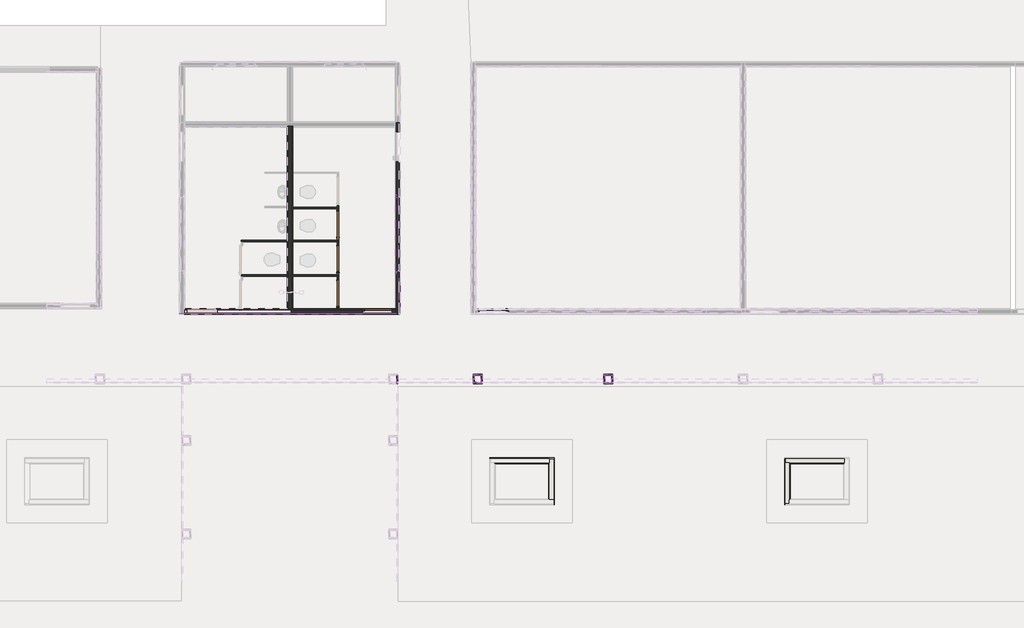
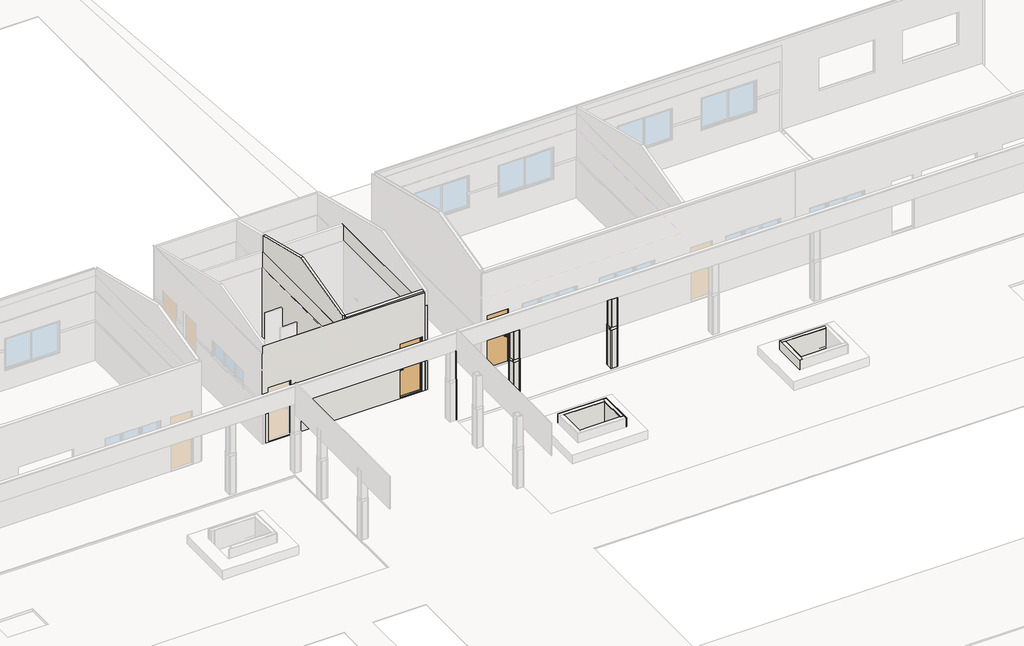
# One storey, part 15 of 28: 59 walls, 7 doors, 1 window.
"""IFC4 building model written with IfcOpenShell, lengths in millimetres."""

from ifc_helpers import new_model, si_unit, frame, origin, origin_with_axes, place, context, project, spatial, polyline, outline, extrude, faceted_brep, transform, mapped, element, save
from components import door_29174598, door_1a2d8e3b, door_95b59213, pf15_l82cm_5bfc7586, pf15_l82cm_686caa18, window_2x60x220_bcaba8dd

model = new_model("IFC4")

# Units and contexts
model_context = context("Model", 3, world=origin())
ifc_project = project(units=[si_unit("LENGTHUNIT", "METRE", prefix="MILLI")], contexts=[model_context])

# Site, building, storey
site = spatial("IfcSite", under=ifc_project)
building = spatial("IfcBuilding", under=site)
storey = spatial("IfcBuildingStorey", under=building, Name="Térreo", Elevation=0.0)

# Doors
placement = place(None, origin())
door_shape = door_29174598(model_context)
element("IfcDoor", 1, ObjectType="FDE_SO_Soleiras1 : SO14_SoleiraRampadaDesnívelAté2cm_L=14cm_Cimentado 2", at=placement, inside=storey, context=model_context, shape_type="MappedRepresentation", body=[
    mapped(door_shape, transform((-28540.0, 21100.0, 215.0), x_axis=(1.0, 0.0, 0.0), y_axis=(0.0, 1.0, 0.0), z_axis=(0.0, 0.0, 1.0))),
])
door_2_shape = door_1a2d8e3b(model_context)
element("IfcDoor", 2, ObjectType="FDE_PM_PortaBoxe : PM74_PortaBoxe_L0,62m", at=placement, inside=storey, context=model_context, shape_type="MappedRepresentation", body=[
    mapped(door_2_shape, transform((-29661.9219368, 23495.0, 200.0), x_axis=(0.0, 1.0, 0.0), y_axis=(-1.0, 0.0, 0.0), z_axis=(0.0, 0.0, 1.0))),
])
element("IfcDoor", 3, ObjectType="FDE_PM_PortaBoxe : PM74_PortaBoxe_L0,62m", at=placement, inside=storey, context=model_context, shape_type="MappedRepresentation", body=[
    mapped(door_2_shape, transform((-29661.9219368, 22525.9999995, 220.0), x_axis=(0.0, 1.0, 0.0), y_axis=(-1.0, 0.0, 0.0), z_axis=(0.0, 0.0, 1.0))),
])
element("IfcDoor", 4, ObjectType="FDE_PM_PortaBoxe : PM74_PortaBoxe_L0,62m", at=placement, inside=storey, context=model_context, shape_type="MappedRepresentation", body=[
    mapped(door_2_shape, transform((-29661.9219368, 21566.0000001, 220.0), x_axis=(0.0, 1.0, 0.0), y_axis=(-1.0, 0.0, 0.0), z_axis=(0.0, 0.0, 1.0))),
])
door_3_shape = door_95b59213(model_context)
element("IfcDoor", 5, ObjectType="FDE_SO_Soleiras1 : SO14_SoleiraRampadaDesnívelAté2cm_L=14cm_Cimentado 2", at=placement, inside=storey, context=model_context, shape_type="MappedRepresentation", body=[
    mapped(door_3_shape, transform((-25313.0, 21100.0, 200.0), x_axis=(-1.0, 0.0, 0.0), y_axis=(0.0, -1.0, 0.0), z_axis=(0.0, 0.0, 1.0))),
])
pf15_l82cm_shape = pf15_l82cm_5bfc7586(model_context)
element("IfcDoor", 6, ObjectType="FDE_PF15_PF16_PF17_PortaemChapadeFerro : PF15_L82cm", at=placement, inside=storey, context=model_context, shape_type="MappedRepresentation", body=[
    mapped(pf15_l82cm_shape, transform((-28540.0, 21105.0, 215.0), x_axis=(1.0, 0.0, 0.0), y_axis=(0.0, 1.0, 0.0), z_axis=(0.0, 0.0, 1.0))),
])
pf15_l82cm_2_shape = pf15_l82cm_686caa18(model_context)
element("IfcDoor", 7, ObjectType="FDE_PF15_PF16_PF17_PortaemChapadeFerro : PF15_L82cm", at=placement, inside=storey, context=model_context, shape_type="MappedRepresentation", body=[
    mapped(pf15_l82cm_2_shape, transform((-25313.0, 21105.0, 200.0), x_axis=(-1.0, 0.0, 0.0), y_axis=(0.0, -1.0, 0.0), z_axis=(0.0, 0.0, 1.0))),
])

# Walls
element("IfcWall", 8, ObjectType="FDE_S712_AlvenariadeTijoloCerâmico/Baiano_Alvenaria_9cm - Existente", at=placement, inside=storey, context=model_context, shape_type="SweptSolid", body=[
    extrude(outline(polyline([(-31020.0, 21150.0), (-31020.0, 26255.0), (-30930.0, 26255.0), (-30930.0, 21150.0), (-31020.0, 21150.0)])), origin_with_axes(), (0.0, 0.0, 1.0), 3500.0),
])
element("IfcWall", 9, ObjectType="FDE_S712_AlvenariadeTijoloCerâmico/Baiano_Alvenaria_9cm - Existente", at=placement, inside=storey, context=model_context, shape_type="Brep", body=[
    faceted_brep([(-28020.0, 21150.0, 131.0), (-28020.0, 21150.0, 0.0), (-29710.0, 21150.0, 0.0), (-29710.0, 21150.0, 131.0), (-28020.0, 21060.0, 0.0), (-28020.0, 21060.0, 131.0), (-29710.0, 21060.0, 131.0), (-29710.0, 21060.0, 0.0)], [[[0, 1, 2, 3]], [[4, 5, 6, 7]], [[1, 4, 7, 2]], [[5, 0, 3, 6]], [[1, 0, 5, 4]], [[3, 2, 7, 6]]]),
    faceted_brep([(-33930.0, 21150.0, 0.0), (-33930.0, 21150.0, 131.0), (-30544.0, 21150.0, 131.0), (-30544.0, 21150.0, 0.0), (-30930.0, 21150.0, 0.0), (-31020.0, 21150.0, 0.0), (-33930.0, 21060.0, 131.0), (-33930.0, 21060.0, 0.0), (-30544.0, 21060.0, 0.0), (-30544.0, 21060.0, 131.0)], [[[0, 1, 2, 3, 4, 5]], [[6, 7, 8, 9]], [[7, 0, 5, 4, 3, 8]], [[1, 6, 9, 2]], [[1, 0, 7, 6]], [[3, 2, 9, 8]]]),
])
element("IfcWall", 10, ObjectType="FDE_S712_AlvenariadeTijoloCerâmico/Baiano_Alvenaria_9cm - Existente", at=placement, inside=storey, context=model_context, shape_type="Brep", body=[
    faceted_brep([(-28020.0, 26345.0, 0.0), (-28020.0, 26255.0, 0.0), (-28020.0, 21150.0, 0.0), (-28020.0, 21060.0, 0.0), (-28020.0, 21060.0, 131.0), (-28020.0, 21030.0, 131.0), (-28020.0, 21030.0, 1731.0528047), (-28020.0, 21045.0, 1731.0528047), (-28020.0, 21045.0, 3500.0), (-28020.0, 26255.0, 3500.0), (-28020.0, 26345.0, 3500.0), (-28020.0, 26096.0, 115.0), (-28020.0, 26096.0, 2227.0), (-28020.0, 25262.0, 2227.0), (-28020.0, 25262.0, 115.0), (-28020.0, 24285.0, 1665.0), (-28020.0, 24285.0, 2335.0), (-28020.0, 22215.0, 2335.0), (-28020.0, 22215.0, 1665.0), (-27930.0, 21060.0, 0.0), (-27930.0, 26345.0, 0.0), (-27930.0, 26345.0, 3500.0), (-27930.0, 21045.0, 3500.0), (-27930.0, 21045.0, 1824.9435125), (-27930.0, 21045.0, 1731.0528047), (-27930.0, 21030.0, 1731.0528047), (-27930.0, 21030.0, 131.0), (-27930.0, 21060.0, 131.0), (-27930.0, 26096.0, 2227.0), (-27930.0, 26096.0, 1824.9435125), (-27930.0, 26096.0, 1731.0528047), (-27930.0, 26096.0, 1700.0), (-27930.0, 26096.0, 115.0), (-27930.0, 25262.0, 115.0), (-27930.0, 25262.0, 1700.0), (-27930.0, 25262.0, 1731.0528047), (-27930.0, 25262.0, 1824.9435125), (-27930.0, 25262.0, 2227.0), (-27930.0, 24285.0, 2335.0), (-27930.0, 24285.0, 1824.9435125), (-27930.0, 24285.0, 1731.0528047), (-27930.0, 24285.0, 1700.0), (-27930.0, 24285.0, 1665.0), (-27930.0, 22215.0, 1665.0), (-27930.0, 22215.0, 1700.0), (-27930.0, 22215.0, 1731.0528047), (-27930.0, 22215.0, 1824.9435125), (-27930.0, 22215.0, 2335.0)], [[[0, 1, 2, 3, 4, 5, 6, 7, 8, 9, 10], [11, 12, 13, 14], [15, 16, 17, 18]], [[19, 20, 21, 22, 23, 24, 25, 26, 27], [28, 29, 30, 31, 32, 33, 34, 35, 36, 37], [38, 39, 40, 41, 42, 43, 44, 45, 46, 47]], [[3, 2, 1, 0, 20, 19]], [[10, 9, 8, 22, 21]], [[0, 10, 21, 20]], [[11, 32, 31, 30, 29, 28, 12]], [[12, 28, 37, 13]], [[13, 37, 36, 35, 34, 33, 14]], [[32, 11, 14, 33]], [[15, 42, 41, 40, 39, 38, 16]], [[16, 38, 47, 17]], [[17, 47, 46, 45, 44, 43, 18]], [[42, 15, 18, 43]], [[5, 4, 27, 26]], [[3, 19, 27, 4]], [[24, 7, 6, 25]], [[5, 26, 25, 6]], [[22, 8, 7, 24, 23]]]),
])
element("IfcWall", 11, ObjectType="FDE_S712_AlvenariadeTijoloCerâmico/Baiano_Alvenaria_9cm - Existente", at=placement, inside=storey, context=model_context, shape_type="Brep", body=[
    faceted_brep([(-28050.0, 21150.0, 0.0), (-30930.0, 21150.0, 0.0), (-30930.0, 21150.0, 100.0), (-30930.0, 21150.0, 1100.0), (-30930.0, 21150.0, 2900.0), (-30930.0, 21150.0, 4093.692274), (-28050.0, 21150.0, 4093.692274), (-28050.0, 21150.0, 2900.0), (-28050.0, 21150.0, 200.0), (-28123.0, 21150.0, 215.0), (-28123.0, 21150.0, 1100.0), (-28123.0, 21150.0, 2327.0), (-28957.0, 21150.0, 2327.0), (-28957.0, 21150.0, 1100.0), (-28957.0, 21150.0, 215.0), (-30930.0, 21060.0, 0.0), (-28050.0, 21060.0, 0.0), (-28050.0, 21060.0, 4071.192274), (-30930.0, 21060.0, 4071.192274), (-28123.0, 21060.0, 2327.0), (-28123.0, 21060.0, 1824.9435125), (-28123.0, 21060.0, 1731.0528047), (-28123.0, 21060.0, 215.0), (-28957.0, 21060.0, 215.0), (-28957.0, 21060.0, 1731.0528047), (-28957.0, 21060.0, 1824.9435125), (-28957.0, 21060.0, 2327.0)], [[[0, 1, 2, 3, 4, 5, 6, 7, 8], [9, 10, 11, 12, 13, 14]], [[15, 16, 17, 18], [19, 20, 21, 22, 23, 24, 25, 26]], [[1, 0, 16, 15]], [[0, 8, 7, 6, 17, 16]], [[6, 5, 18, 17]], [[5, 4, 3, 2, 1, 15, 18]], [[9, 22, 21, 20, 19, 11, 10]], [[11, 19, 26, 12]], [[12, 26, 25, 24, 23, 14, 13]], [[22, 9, 14, 23]]]),
])
element("IfcWall", 12, ObjectType="FDE_S712_AlvenariadeTijoloCerâmico/Baiano_Alvenaria_9cm - Existente", at=placement, inside=storey, context=model_context, shape_type="Brep", body=[
    faceted_brep([(-30930.0, 21150.0, 0.0), (-30930.0, 26225.0, 0.0), (-30930.0, 26225.0, 4155.7580277), (-30930.0, 23811.6315073, 4759.1001508), (-30930.0, 21150.0, 4093.692274), (-30930.0, 21150.0, 2900.0), (-30930.0, 21150.0, 1100.0), (-31020.0, 21150.0, 0.0), (-31020.0, 21150.0, 4093.692274), (-31020.0, 23811.6315073, 4759.1001508), (-31020.0, 26225.0, 4155.7580277), (-31020.0, 26225.0, 0.0)], [[[0, 1, 2, 3, 4, 5, 6]], [[7, 8, 9, 10, 11]], [[1, 0, 7, 11]], [[2, 1, 11, 10]], [[0, 6, 5, 4, 8, 7]], [[4, 3, 9, 8]], [[3, 2, 10, 9]]]),
])
element("IfcWall", 13, ObjectType="Revestimento Cerâmico 10x10cm", at=placement, inside=storey, context=model_context, shape_type="Brep", body=[
    faceted_brep([(-33930.0, 21030.0, 0.0), (-28020.0, 21030.0, 0.0), (-28020.0, 21030.0, 131.0), (-28020.0, 21030.0, 1731.0528047), (-28123.0, 21030.0, 1731.0528047), (-28123.0, 21030.0, 215.0), (-28957.0, 21030.0, 215.0), (-28957.0, 21030.0, 1731.0528047), (-32996.0, 21030.0, 1731.0528047), (-32996.0, 21030.0, 215.0), (-33830.0, 21030.0, 215.0), (-33830.0, 21030.0, 1731.0528047), (-33930.0, 21030.0, 1731.0528047), (-33930.0, 21030.0, 131.0), (-28020.0, 21060.0, 0.0), (-28050.0, 21060.0, 0.0), (-30930.0, 21060.0, 0.0), (-33930.0, 21060.0, 0.0), (-33930.0, 21060.0, 1731.0528047), (-33830.0, 21060.0, 1731.0528047), (-33830.0, 21060.0, 215.0), (-32996.0, 21060.0, 215.0), (-32996.0, 21060.0, 1731.0528047), (-28957.0, 21060.0, 1731.0528047), (-28957.0, 21060.0, 215.0), (-28123.0, 21060.0, 215.0), (-28123.0, 21060.0, 1731.0528047), (-28020.0, 21060.0, 1731.0528047), (-28020.0, 21045.0, 1731.0528047)], [[[0, 1, 2, 3, 4, 5, 6, 7, 8, 9, 10, 11, 12, 13]], [[14, 15, 16, 17, 18, 19, 20, 21, 22, 23, 24, 25, 26, 27]], [[1, 0, 17, 16, 15, 14]], [[26, 4, 3, 28, 27]], [[7, 23, 22, 8]], [[18, 12, 11, 19]], [[25, 5, 4, 26]], [[6, 24, 23, 7]], [[5, 25, 24, 6]], [[10, 20, 19, 11]], [[21, 9, 8, 22]], [[20, 10, 9, 21]], [[12, 18, 17, 0, 13]], [[1, 14, 27, 28, 3, 2]]]),
])
element("IfcWall", 14, ObjectType="Faixa - Revestimento Cerâmico Verde Folha 10x10cm", at=placement, inside=storey, context=model_context, shape_type="Brep", body=[
    faceted_brep([(-27900.0, 21045.0, 1824.9435125), (-27900.0, 21045.0, 1731.0528047), (-27900.0, 22215.0, 1731.0528047), (-27900.0, 22215.0, 1824.9435125), (-27930.0, 21045.0, 1731.0528047), (-27930.0, 21045.0, 1824.9435125), (-27930.0, 22215.0, 1824.9435125), (-27930.0, 22215.0, 1731.0528047), (-27909.0, 21045.0, 1824.9435125)], [[[0, 1, 2, 3]], [[4, 5, 6, 7]], [[1, 4, 7, 2]], [[5, 8, 0, 3, 6]], [[1, 0, 8, 5, 4]], [[3, 2, 7, 6]]]),
])
element("IfcWall", 15, ObjectType="Pardes Externas_Pintura Acrílica Branco Neve", at=placement, inside=storey, context=model_context, shape_type="Brep", body=[
    faceted_brep([(-28020.0, 21039.0, 4013.8205229), (-34020.0, 21039.0, 4013.8205229), (-34020.0, 21039.0, 3741.7030272), (-34041.0, 21039.0, 3741.7030272), (-34041.0, 21039.0, 1824.9435125), (-33830.0, 21039.0, 1824.9435125), (-33830.0, 21039.0, 2327.0), (-32996.0, 21039.0, 2327.0), (-32996.0, 21039.0, 1824.9435125), (-28957.0, 21039.0, 1824.9435125), (-28957.0, 21039.0, 2327.0), (-28123.0, 21039.0, 2327.0), (-28123.0, 21039.0, 1824.9435125), (-28020.0, 21039.0, 1824.9435125), (-34020.0, 21060.0, 4013.8205229), (-28020.0, 21060.0, 4013.8205229), (-28020.0, 21060.0, 1824.9435125), (-28123.0, 21060.0, 1824.9435125), (-28123.0, 21060.0, 2327.0), (-28957.0, 21060.0, 2327.0), (-28957.0, 21060.0, 1824.9435125), (-32996.0, 21060.0, 1824.9435125), (-32996.0, 21060.0, 2327.0), (-33830.0, 21060.0, 2327.0), (-33830.0, 21060.0, 1824.9435125), (-34020.0, 21060.0, 1824.9435125), (-34041.0, 21060.0, 1824.9435125), (-34041.0, 21060.0, 3741.7030272), (-34020.0, 21060.0, 3741.7030272)], [[[0, 1, 2, 3, 4, 5, 6, 7, 8, 9, 10, 11, 12, 13]], [[14, 15, 16, 17, 18, 19, 20, 21, 22, 23, 24, 25, 26, 27, 28]], [[4, 26, 25, 24, 5]], [[12, 17, 16, 13]], [[20, 9, 8, 21]], [[1, 0, 15, 14]], [[26, 4, 3, 27]], [[1, 14, 28, 2]], [[28, 27, 3, 2]], [[11, 18, 17, 12]], [[18, 11, 10, 19]], [[19, 10, 9, 20]], [[23, 6, 5, 24]], [[6, 23, 22, 7]], [[7, 22, 21, 8]], [[13, 16, 15, 0]]]),
])
element("IfcWall", 16, ObjectType="Revestimento Cerâmico 10x10cm", at=placement, inside=storey, context=model_context, shape_type="Brep", body=[
    faceted_brep([(-28000.0, 19330.0, 194.0), (-28000.0, 19130.0, 194.0), (-28000.0, 19100.0, 194.0), (-28000.0, 19100.0, 1694.0), (-28000.0, 19130.0, 1694.0), (-28000.0, 19330.0, 1694.0), (-27970.0, 19330.0, 194.0), (-27970.0, 19330.0, 1694.0), (-27970.0, 19100.0, 1694.0), (-27970.0, 19100.0, 194.0)], [[[0, 1, 2, 3, 4, 5]], [[6, 7, 8, 9]], [[2, 1, 0, 6, 9]], [[5, 4, 3, 8, 7]], [[0, 5, 7, 6]], [[3, 2, 9, 8]]]),
])
element("IfcWall", 17, ObjectType="Faixa - Revestimento Cerâmico Verde Folha 10x10cm", at=placement, inside=storey, context=model_context, shape_type="Brep", body=[
    faceted_brep([(-28000.0, 19330.0, 1694.0), (-28000.0, 19130.0, 1694.0), (-28000.0, 19100.0, 1694.0), (-28000.0, 19100.0, 1794.0), (-28000.0, 19130.0, 1794.0), (-28000.0, 19330.0, 1794.0), (-27970.0, 19330.0, 1694.0), (-27970.0, 19330.0, 1794.0), (-27970.0, 19100.0, 1794.0), (-27970.0, 19100.0, 1694.0)], [[[0, 1, 2, 3, 4, 5]], [[6, 7, 8, 9]], [[2, 1, 0, 6, 9]], [[5, 4, 3, 8, 7]], [[0, 5, 7, 6]], [[3, 2, 9, 8]]]),
])
element("IfcWall", 18, ObjectType="Pardes Externas_Pintura Acrílica Branco Neve", at=placement, inside=storey, context=model_context, shape_type="Brep", body=[
    faceted_brep([(-28000.0, 19330.0, 1794.0), (-28000.0, 19130.0, 1794.0), (-28000.0, 19109.0, 1794.0), (-28000.0, 19109.0, 2900.0), (-28000.0, 19130.0, 2900.0), (-28000.0, 19330.0, 2900.0), (-27979.0, 19330.0, 1794.0), (-27979.0, 19330.0, 2900.0), (-27979.0, 19109.0, 2900.0), (-27979.0, 19109.0, 1794.0)], [[[0, 1, 2, 3, 4, 5]], [[6, 7, 8, 9]], [[2, 1, 0, 6, 9]], [[5, 4, 3, 8, 7]], [[3, 2, 9, 8]], [[0, 5, 7, 6]]]),
])
element("IfcWall", 19, ObjectType="Pardes Externas_Pintura Acrílica Branco Neve", at=placement, inside=storey, context=model_context, shape_type="Brep", body=[
    faceted_brep([(-25871.0, 19330.0, 1794.0), (-25850.0, 19330.0, 1794.0), (-25650.0, 19330.0, 1794.0), (-25629.0, 19330.0, 1794.0), (-25629.0, 19330.0, 2900.0), (-25650.0, 19330.0, 2900.0), (-25850.0, 19330.0, 2900.0), (-25871.0, 19330.0, 2900.0), (-25871.0, 19351.0, 1794.0), (-25871.0, 19351.0, 2900.0), (-25629.0, 19351.0, 2900.0), (-25629.0, 19351.0, 1794.0)], [[[0, 1, 2, 3, 4, 5, 6, 7]], [[8, 9, 10, 11]], [[3, 2, 1, 0, 8, 11]], [[7, 6, 5, 4, 10, 9]], [[0, 7, 9, 8]], [[4, 3, 11, 10]]]),
])
element("IfcWall", 20, ObjectType="Revestimento Cerâmico 10x10cm", at=placement, inside=storey, context=model_context, shape_type="Brep", body=[
    faceted_brep([(-25880.0, 19330.0, 194.0), (-25850.0, 19330.0, 194.0), (-25650.0, 19330.0, 194.0), (-25620.0, 19330.0, 194.0), (-25620.0, 19330.0, 1694.0), (-25650.0, 19330.0, 1694.0), (-25850.0, 19330.0, 1694.0), (-25880.0, 19330.0, 1694.0), (-25880.0, 19360.0, 194.0), (-25880.0, 19360.0, 1694.0), (-25620.0, 19360.0, 1694.0), (-25620.0, 19360.0, 194.0)], [[[0, 1, 2, 3, 4, 5, 6, 7]], [[8, 9, 10, 11]], [[3, 2, 1, 0, 8, 11]], [[7, 6, 5, 4, 10, 9]], [[0, 7, 9, 8]], [[4, 3, 11, 10]]]),
])
element("IfcWall", 21, ObjectType="Revestimento Cerâmico 10x10cm", at=placement, inside=storey, context=model_context, shape_type="Brep", body=[
    faceted_brep([(-25850.0, 19100.0, 194.0), (-25850.0, 19130.0, 194.0), (-25850.0, 19330.0, 194.0), (-25850.0, 19330.0, 1694.0), (-25850.0, 19130.0, 1694.0), (-25850.0, 19100.0, 1694.0), (-25880.0, 19100.0, 194.0), (-25880.0, 19100.0, 1694.0), (-25880.0, 19330.0, 1694.0), (-25880.0, 19330.0, 194.0)], [[[0, 1, 2, 3, 4, 5]], [[6, 7, 8, 9]], [[2, 1, 0, 6, 9]], [[5, 4, 3, 8, 7]], [[3, 2, 9, 8]], [[0, 5, 7, 6]]]),
])
element("IfcWall", 22, ObjectType="Revestimento Cerâmico 10x10cm", at=placement, inside=storey, context=model_context, shape_type="Brep", body=[
    faceted_brep([(-25650.0, 19330.0, 194.0), (-25650.0, 19130.0, 194.0), (-25650.0, 19100.0, 194.0), (-25650.0, 19100.0, 1694.0), (-25650.0, 19130.0, 1694.0), (-25650.0, 19330.0, 1694.0), (-25620.0, 19330.0, 194.0), (-25620.0, 19330.0, 1694.0), (-25620.0, 19100.0, 1694.0), (-25620.0, 19100.0, 194.0)], [[[0, 1, 2, 3, 4, 5]], [[6, 7, 8, 9]], [[2, 1, 0, 6, 9]], [[5, 4, 3, 8, 7]], [[0, 5, 7, 6]], [[3, 2, 9, 8]]]),
])
element("IfcWall", 23, ObjectType="Revestimento Cerâmico 10x10cm", at=placement, inside=storey, context=model_context, shape_type="SweptSolid", body=[
    extrude(outline(polyline([(-25650.0, 19100.0), (-25850.0, 19100.0), (-25850.0, 19130.0), (-25650.0, 19130.0), (-25650.0, 19100.0)])), frame((0.0, 0.0, 194.0), z_axis=(0.0, 0.0, 1.0), x_axis=(1.0, 0.0, 0.0)), (0.0, 0.0, 1.0), 1500.0),
])
element("IfcWall", 24, ObjectType="Faixa - Revestimento Cerâmico Verde Folha 10x10cm", at=placement, inside=storey, context=model_context, shape_type="Brep", body=[
    faceted_brep([(-25880.0, 19330.0, 1694.0), (-25850.0, 19330.0, 1694.0), (-25650.0, 19330.0, 1694.0), (-25620.0, 19330.0, 1694.0), (-25620.0, 19330.0, 1794.0), (-25650.0, 19330.0, 1794.0), (-25850.0, 19330.0, 1794.0), (-25880.0, 19330.0, 1794.0), (-25880.0, 19360.0, 1694.0), (-25880.0, 19360.0, 1794.0), (-25620.0, 19360.0, 1794.0), (-25620.0, 19360.0, 1694.0)], [[[0, 1, 2, 3, 4, 5, 6, 7]], [[8, 9, 10, 11]], [[3, 2, 1, 0, 8, 11]], [[7, 6, 5, 4, 10, 9]], [[4, 3, 11, 10]], [[0, 7, 9, 8]]]),
])
element("IfcWall", 25, ObjectType="Faixa - Revestimento Cerâmico Verde Folha 10x10cm", at=placement, inside=storey, context=model_context, shape_type="Brep", body=[
    faceted_brep([(-25650.0, 19330.0, 1694.0), (-25650.0, 19130.0, 1694.0), (-25650.0, 19100.0, 1694.0), (-25650.0, 19100.0, 1794.0), (-25650.0, 19130.0, 1794.0), (-25650.0, 19330.0, 1794.0), (-25620.0, 19330.0, 1694.0), (-25620.0, 19330.0, 1794.0), (-25620.0, 19100.0, 1794.0), (-25620.0, 19100.0, 1694.0)], [[[0, 1, 2, 3, 4, 5]], [[6, 7, 8, 9]], [[2, 1, 0, 6, 9]], [[5, 4, 3, 8, 7]], [[0, 5, 7, 6]], [[3, 2, 9, 8]]]),
])
element("IfcWall", 26, ObjectType="Faixa - Revestimento Cerâmico Verde Folha 10x10cm", at=placement, inside=storey, context=model_context, shape_type="Brep", body=[
    faceted_brep([(-25880.0, 19100.0, 1694.0), (-25650.0, 19100.0, 1694.0), (-25650.0, 19100.0, 1794.0), (-25880.0, 19100.0, 1794.0), (-25880.0, 19130.0, 1694.0), (-25880.0, 19130.0, 1794.0), (-25850.0, 19130.0, 1794.0), (-25650.0, 19130.0, 1794.0), (-25650.0, 19130.0, 1694.0), (-25850.0, 19130.0, 1694.0), (-25650.0, 19109.0, 1794.0)], [[[0, 1, 2, 3]], [[4, 5, 6, 7, 8, 9]], [[1, 0, 4, 9, 8]], [[3, 2, 10, 7, 6, 5]], [[2, 1, 8, 7, 10]], [[0, 3, 5, 4]]]),
])
element("IfcWall", 27, ObjectType="Faixa - Revestimento Cerâmico Verde Folha 10x10cm", at=placement, inside=storey, context=model_context, shape_type="SweptSolid", body=[
    extrude(outline(polyline([(-25880.0, 19130.0), (-25880.0, 19330.0), (-25850.0, 19330.0), (-25850.0, 19130.0), (-25880.0, 19130.0)])), frame((0.0, 0.0, 1694.0), z_axis=(0.0, 0.0, 1.0), x_axis=(1.0, 0.0, 0.0)), (0.0, 0.0, 1.0), 100.0),
])
element("IfcWall", 28, ObjectType="Pardes Externas_Pintura Acrílica Branco Neve", at=placement, inside=storey, context=model_context, shape_type="SweptSolid", body=[
    extrude(outline(polyline([(-25650.0, 19109.0), (-25850.0, 19109.0), (-25850.0, 19130.0), (-25650.0, 19130.0), (-25650.0, 19109.0)])), frame((0.0, 0.0, 1794.0), z_axis=(0.0, 0.0, 1.0), x_axis=(1.0, 0.0, 0.0)), (0.0, 0.0, 1.0), 1106.0),
])
element("IfcWall", 29, ObjectType="Pardes Externas_Pintura Acrílica Branco Neve", at=placement, inside=storey, context=model_context, shape_type="Brep", body=[
    faceted_brep([(-25650.0, 19330.0, 1794.0), (-25650.0, 19130.0, 1794.0), (-25650.0, 19109.0, 1794.0), (-25650.0, 19109.0, 2900.0), (-25650.0, 19130.0, 2900.0), (-25650.0, 19330.0, 2900.0), (-25629.0, 19330.0, 1794.0), (-25629.0, 19330.0, 2900.0), (-25629.0, 19109.0, 2900.0), (-25629.0, 19109.0, 1794.0)], [[[0, 1, 2, 3, 4, 5]], [[6, 7, 8, 9]], [[2, 1, 0, 6, 9]], [[5, 4, 3, 8, 7]], [[3, 2, 9, 8]], [[0, 5, 7, 6]]]),
])
element("IfcWall", 30, ObjectType="Pardes Externas_Pintura Acrílica Branco Neve", at=placement, inside=storey, context=model_context, shape_type="Brep", body=[
    faceted_brep([(-25871.0, 19330.0, 1794.0), (-25871.0, 19109.0, 1794.0), (-25871.0, 19109.0, 2900.0), (-25871.0, 19330.0, 2900.0), (-25850.0, 19330.0, 1794.0), (-25850.0, 19330.0, 2900.0), (-25850.0, 19130.0, 2900.0), (-25850.0, 19109.0, 2900.0), (-25850.0, 19109.0, 1794.0), (-25850.0, 19130.0, 1794.0)], [[[0, 1, 2, 3]], [[4, 5, 6, 7, 8, 9]], [[1, 0, 4, 9, 8]], [[3, 2, 7, 6, 5]], [[2, 1, 8, 7]], [[0, 3, 5, 4]]]),
])
element("IfcWall", 31, ObjectType="Pardes Externas_Pintura Acrílica Branco Neve", at=placement, inside=storey, context=model_context, shape_type="Brep", body=[
    faceted_brep([(-22246.0, 19330.0, 1794.0), (-22225.0, 19330.0, 1794.0), (-22025.0, 19330.0, 1794.0), (-22004.0, 19330.0, 1794.0), (-22004.0, 19330.0, 2900.0), (-22025.0, 19330.0, 2900.0), (-22225.0, 19330.0, 2900.0), (-22246.0, 19330.0, 2900.0), (-22246.0, 19351.0, 1794.0), (-22246.0, 19351.0, 2900.0), (-22004.0, 19351.0, 2900.0), (-22004.0, 19351.0, 1794.0)], [[[0, 1, 2, 3, 4, 5, 6, 7]], [[8, 9, 10, 11]], [[3, 2, 1, 0, 8, 11]], [[7, 6, 5, 4, 10, 9]], [[0, 7, 9, 8]], [[4, 3, 11, 10]]]),
])
element("IfcWall", 32, ObjectType="Revestimento Cerâmico 10x10cm", at=placement, inside=storey, context=model_context, shape_type="Brep", body=[
    faceted_brep([(-22255.0, 19330.0, 194.0), (-22225.0, 19330.0, 194.0), (-22025.0, 19330.0, 194.0), (-21995.0, 19330.0, 194.0), (-21995.0, 19330.0, 1694.0), (-22025.0, 19330.0, 1694.0), (-22225.0, 19330.0, 1694.0), (-22255.0, 19330.0, 1694.0), (-22255.0, 19360.0, 194.0), (-22255.0, 19360.0, 1694.0), (-21995.0, 19360.0, 1694.0), (-21995.0, 19360.0, 194.0)], [[[0, 1, 2, 3, 4, 5, 6, 7]], [[8, 9, 10, 11]], [[3, 2, 1, 0, 8, 11]], [[7, 6, 5, 4, 10, 9]], [[0, 7, 9, 8]], [[4, 3, 11, 10]]]),
])
element("IfcWall", 33, ObjectType="Revestimento Cerâmico 10x10cm", at=placement, inside=storey, context=model_context, shape_type="Brep", body=[
    faceted_brep([(-22225.0, 19100.0, 194.0), (-22225.0, 19130.0, 194.0), (-22225.0, 19330.0, 194.0), (-22225.0, 19330.0, 1694.0), (-22225.0, 19130.0, 1694.0), (-22225.0, 19100.0, 1694.0), (-22255.0, 19100.0, 194.0), (-22255.0, 19100.0, 1694.0), (-22255.0, 19330.0, 1694.0), (-22255.0, 19330.0, 194.0)], [[[0, 1, 2, 3, 4, 5]], [[6, 7, 8, 9]], [[2, 1, 0, 6, 9]], [[5, 4, 3, 8, 7]], [[3, 2, 9, 8]], [[0, 5, 7, 6]]]),
])
element("IfcWall", 34, ObjectType="Revestimento Cerâmico 10x10cm", at=placement, inside=storey, context=model_context, shape_type="Brep", body=[
    faceted_brep([(-22025.0, 19330.0, 194.0), (-22025.0, 19130.0, 194.0), (-22025.0, 19100.0, 194.0), (-22025.0, 19100.0, 1694.0), (-22025.0, 19130.0, 1694.0), (-22025.0, 19330.0, 1694.0), (-21995.0, 19330.0, 194.0), (-21995.0, 19330.0, 1694.0), (-21995.0, 19100.0, 1694.0), (-21995.0, 19100.0, 194.0)], [[[0, 1, 2, 3, 4, 5]], [[6, 7, 8, 9]], [[2, 1, 0, 6, 9]], [[5, 4, 3, 8, 7]], [[0, 5, 7, 6]], [[3, 2, 9, 8]]]),
])
element("IfcWall", 35, ObjectType="Revestimento Cerâmico 10x10cm", at=placement, inside=storey, context=model_context, shape_type="SweptSolid", body=[
    extrude(outline(polyline([(-22025.0, 19100.0), (-22225.0, 19100.0), (-22225.0, 19130.0), (-22025.0, 19130.0), (-22025.0, 19100.0)])), frame((0.0, 0.0, 194.0), z_axis=(0.0, 0.0, 1.0), x_axis=(1.0, 0.0, 0.0)), (0.0, 0.0, 1.0), 1500.0),
])
element("IfcWall", 36, ObjectType="Faixa - Revestimento Cerâmico Verde Folha 10x10cm", at=placement, inside=storey, context=model_context, shape_type="Brep", body=[
    faceted_brep([(-22255.0, 19330.0, 1694.0), (-22225.0, 19330.0, 1694.0), (-22025.0, 19330.0, 1694.0), (-21995.0, 19330.0, 1694.0), (-21995.0, 19330.0, 1794.0), (-22025.0, 19330.0, 1794.0), (-22225.0, 19330.0, 1794.0), (-22255.0, 19330.0, 1794.0), (-22255.0, 19360.0, 1694.0), (-22255.0, 19360.0, 1794.0), (-21995.0, 19360.0, 1794.0), (-21995.0, 19360.0, 1694.0)], [[[0, 1, 2, 3, 4, 5, 6, 7]], [[8, 9, 10, 11]], [[3, 2, 1, 0, 8, 11]], [[7, 6, 5, 4, 10, 9]], [[4, 3, 11, 10]], [[0, 7, 9, 8]]]),
])
element("IfcWall", 37, ObjectType="Faixa - Revestimento Cerâmico Verde Folha 10x10cm", at=placement, inside=storey, context=model_context, shape_type="Brep", body=[
    faceted_brep([(-22025.0, 19330.0, 1694.0), (-22025.0, 19130.0, 1694.0), (-22025.0, 19100.0, 1694.0), (-22025.0, 19100.0, 1794.0), (-22025.0, 19130.0, 1794.0), (-22025.0, 19330.0, 1794.0), (-21995.0, 19330.0, 1694.0), (-21995.0, 19330.0, 1794.0), (-21995.0, 19100.0, 1794.0), (-21995.0, 19100.0, 1694.0)], [[[0, 1, 2, 3, 4, 5]], [[6, 7, 8, 9]], [[2, 1, 0, 6, 9]], [[5, 4, 3, 8, 7]], [[0, 5, 7, 6]], [[3, 2, 9, 8]]]),
])
element("IfcWall", 38, ObjectType="Faixa - Revestimento Cerâmico Verde Folha 10x10cm", at=placement, inside=storey, context=model_context, shape_type="Brep", body=[
    faceted_brep([(-22255.0, 19100.0, 1694.0), (-22025.0, 19100.0, 1694.0), (-22025.0, 19100.0, 1794.0), (-22255.0, 19100.0, 1794.0), (-22255.0, 19130.0, 1694.0), (-22255.0, 19130.0, 1794.0), (-22225.0, 19130.0, 1794.0), (-22025.0, 19130.0, 1794.0), (-22025.0, 19130.0, 1694.0), (-22225.0, 19130.0, 1694.0), (-22025.0, 19109.0, 1794.0)], [[[0, 1, 2, 3]], [[4, 5, 6, 7, 8, 9]], [[1, 0, 4, 9, 8]], [[3, 2, 10, 7, 6, 5]], [[2, 1, 8, 7, 10]], [[0, 3, 5, 4]]]),
])
element("IfcWall", 39, ObjectType="Faixa - Revestimento Cerâmico Verde Folha 10x10cm", at=placement, inside=storey, context=model_context, shape_type="SweptSolid", body=[
    extrude(outline(polyline([(-22255.0, 19130.0), (-22255.0, 19330.0), (-22225.0, 19330.0), (-22225.0, 19130.0), (-22255.0, 19130.0)])), frame((0.0, 0.0, 1694.0), z_axis=(0.0, 0.0, 1.0), x_axis=(1.0, 0.0, 0.0)), (0.0, 0.0, 1.0), 100.0),
])
element("IfcWall", 40, ObjectType="Pardes Externas_Pintura Acrílica Branco Neve", at=placement, inside=storey, context=model_context, shape_type="SweptSolid", body=[
    extrude(outline(polyline([(-22025.0, 19109.0), (-22225.0, 19109.0), (-22225.0, 19130.0), (-22025.0, 19130.0), (-22025.0, 19109.0)])), frame((0.0, 0.0, 1794.0), z_axis=(0.0, 0.0, 1.0), x_axis=(1.0, 0.0, 0.0)), (0.0, 0.0, 1.0), 1106.0),
])
element("IfcWall", 41, ObjectType="Pardes Externas_Pintura Acrílica Branco Neve", at=placement, inside=storey, context=model_context, shape_type="Brep", body=[
    faceted_brep([(-22025.0, 19330.0, 1794.0), (-22025.0, 19130.0, 1794.0), (-22025.0, 19109.0, 1794.0), (-22025.0, 19109.0, 2900.0), (-22025.0, 19130.0, 2900.0), (-22025.0, 19330.0, 2900.0), (-22004.0, 19330.0, 1794.0), (-22004.0, 19330.0, 2900.0), (-22004.0, 19109.0, 2900.0), (-22004.0, 19109.0, 1794.0)], [[[0, 1, 2, 3, 4, 5]], [[6, 7, 8, 9]], [[2, 1, 0, 6, 9]], [[5, 4, 3, 8, 7]], [[3, 2, 9, 8]], [[0, 5, 7, 6]]]),
])
element("IfcWall", 42, ObjectType="Pardes Externas_Pintura Acrílica Branco Neve", at=placement, inside=storey, context=model_context, shape_type="Brep", body=[
    faceted_brep([(-22246.0, 19330.0, 1794.0), (-22246.0, 19109.0, 1794.0), (-22246.0, 19109.0, 2900.0), (-22246.0, 19330.0, 2900.0), (-22225.0, 19330.0, 1794.0), (-22225.0, 19330.0, 2900.0), (-22225.0, 19130.0, 2900.0), (-22225.0, 19109.0, 2900.0), (-22225.0, 19109.0, 1794.0), (-22225.0, 19130.0, 1794.0)], [[[0, 1, 2, 3]], [[4, 5, 6, 7, 8, 9]], [[1, 0, 4, 9, 8]], [[3, 2, 7, 6, 5]], [[2, 1, 8, 7]], [[0, 3, 5, 4]]]),
])
element("IfcWall", 43, ObjectType="FDE_S713_AlvenariadeTijoloLaminadoaVista_Alvenaria_1/2TijoloAlternado_11,5cm", at=placement, inside=storey, context=model_context, shape_type="Brep", body=[
    faceted_brep([(-23644.7590053, 15867.1451949, 100.0), (-23644.7590053, 17010.1451949, 100.0), (-23644.7590053, 17010.1451949, 800.0), (-23644.7590053, 15867.1451949, 800.0), (-23759.7590053, 15867.1451949, 100.0), (-23759.7590053, 15867.1451949, 800.0), (-23759.7590053, 16895.1451949, 800.0), (-23759.7590053, 17010.1451949, 800.0), (-23759.7590053, 17010.1451949, 179.0468845), (-23759.7590053, 17010.1451949, 100.0)], [[[0, 1, 2, 3]], [[4, 5, 6, 7, 8, 9]], [[1, 0, 4, 9]], [[3, 2, 7, 6, 5]], [[2, 1, 9, 8, 7]], [[0, 3, 5, 4]]]),
])
element("IfcWall", 44, ObjectType="Pardes Externas_Pintura Acrílica Branco Neve", at=placement, inside=storey, context=model_context, shape_type="Brep", body=[
    faceted_brep([(-25423.7590053, 17010.1451949, 100.0), (-25402.7590053, 17010.1451949, 100.0), (-23644.7590053, 17010.1451949, 100.0), (-23623.7590053, 17010.1451949, 100.0), (-23623.7590053, 17010.1451949, 800.0), (-23644.7590053, 17010.1451949, 800.0), (-25402.7590053, 17010.1451949, 800.0), (-25423.7590053, 17010.1451949, 800.0), (-25423.7590053, 17031.1451949, 100.0), (-25423.7590053, 17031.1451949, 800.0), (-23623.7590053, 17031.1451949, 800.0), (-23623.7590053, 17031.1451949, 100.0)], [[[0, 1, 2, 3, 4, 5, 6, 7]], [[8, 9, 10, 11]], [[3, 2, 1, 0, 8, 11]], [[7, 6, 5, 4, 10, 9]], [[0, 7, 9, 8]], [[4, 3, 11, 10]]]),
])
element("IfcWall", 45, ObjectType="Pardes Externas_Pintura Acrílica Branco Neve", at=placement, inside=storey, context=model_context, shape_type="Brep", body=[
    faceted_brep([(-23644.7590053, 17010.1451949, 100.0), (-23644.7590053, 15752.1451949, 100.0), (-23644.7590053, 15731.1451949, 100.0), (-23644.7590053, 15731.1451949, 800.0), (-23644.7590053, 15752.1451949, 800.0), (-23644.7590053, 17010.1451949, 800.0), (-23623.7590053, 17010.1451949, 100.0), (-23623.7590053, 17010.1451949, 800.0), (-23623.7590053, 15731.1451949, 800.0), (-23623.7590053, 15731.1451949, 100.0)], [[[0, 1, 2, 3, 4, 5]], [[6, 7, 8, 9]], [[2, 1, 0, 6, 9]], [[5, 4, 3, 8, 7]], [[0, 5, 7, 6]], [[3, 2, 9, 8]]]),
])
element("IfcWall", 46, ObjectType="Pardes Externas_Pintura Acrílica Branco Neve", at=placement, inside=storey, context=model_context, shape_type="Brep", body=[
    faceted_brep([(-23759.7590053, 15867.1451949, 0.0), (-23759.7590053, 16895.1451949, 0.0), (-23759.7590053, 16895.1451949, 800.0), (-23759.7590053, 15867.1451949, 800.0), (-23780.7590053, 15867.1451949, 0.0), (-23780.7590053, 15867.1451949, 800.0), (-23780.7590053, 15888.1451949, 800.0), (-23780.7590053, 16874.1451949, 800.0), (-23780.7590053, 16895.1451949, 800.0), (-23780.7590053, 16895.1451949, 0.0), (-23780.7590053, 16874.1451949, 0.0), (-23780.7590053, 15888.1451949, 0.0)], [[[0, 1, 2, 3]], [[4, 5, 6, 7, 8, 9, 10, 11]], [[1, 0, 4, 11, 10, 9]], [[3, 2, 8, 7, 6, 5]], [[2, 1, 9, 8]], [[0, 3, 5, 4]]]),
])
element("IfcWall", 47, ObjectType="Pardes Externas_Pintura Acrílica Branco Neve", at=placement, inside=storey, context=model_context, shape_type="Brep", body=[
    faceted_brep([(-23780.7590053, 16895.1451949, 0.0), (-25287.7590053, 16895.1451949, 0.0), (-25287.7590053, 16895.1451949, 800.0), (-23780.7590053, 16895.1451949, 800.0), (-23780.7590053, 16874.1451949, 0.0), (-23780.7590053, 16874.1451949, 800.0), (-25266.7590053, 16874.1451949, 800.0), (-25287.7590053, 16874.1451949, 800.0), (-25287.7590053, 16874.1451949, 0.0), (-25266.7590053, 16874.1451949, 0.0)], [[[0, 1, 2, 3]], [[4, 5, 6, 7, 8, 9]], [[1, 0, 4, 9, 8]], [[3, 2, 7, 6, 5]], [[0, 3, 5, 4]], [[2, 1, 8, 7]]]),
])
element("IfcWall", 48, ObjectType="FDE_S713_AlvenariadeTijoloLaminadoaVista_Alvenaria_1/2TijoloAlternado_11,5cm", at=placement, inside=storey, context=model_context, shape_type="Brep", body=[
    faceted_brep([(-17200.3203436, 16895.1451949, 100.0), (-17200.3203436, 15752.1451949, 100.0), (-17200.3203436, 15752.1451949, 800.0), (-17200.3203436, 16895.1451949, 800.0), (-17200.3203436, 16895.1451949, 179.0468845), (-17085.3203436, 16895.1451949, 100.0), (-17085.3203436, 16895.1451949, 800.0), (-17085.3203436, 15867.1451949, 800.0), (-17085.3203436, 15752.1451949, 800.0), (-17085.3203436, 15752.1451949, 100.0)], [[[0, 1, 2, 3, 4]], [[5, 6, 7, 8, 9]], [[1, 0, 5, 9]], [[3, 2, 8, 7, 6]], [[2, 1, 9, 8]], [[0, 4, 3, 6, 5]]]),
])
element("IfcWall", 49, ObjectType="FDE_S713_AlvenariadeTijoloLaminadoaVista_Alvenaria_1/2TijoloAlternado_11,5cm", at=placement, inside=storey, context=model_context, shape_type="Brep", body=[
    faceted_brep([(-15557.3203436, 17010.1451949, 179.0468845), (-17200.3203436, 17010.1451949, 179.0468845), (-17200.3203436, 17010.1451949, 800.0), (-15557.3203436, 17010.1451949, 800.0), (-15557.3203436, 16895.1451949, 179.0468845), (-15557.3203436, 16895.1451949, 800.0), (-17085.3203436, 16895.1451949, 800.0), (-17200.3203436, 16895.1451949, 800.0), (-17200.3203436, 16895.1451949, 179.0468845)], [[[0, 1, 2, 3]], [[4, 5, 6, 7, 8]], [[1, 0, 4, 8]], [[3, 2, 7, 6, 5]], [[2, 1, 8, 7]], [[0, 3, 5, 4]]]),
])
element("IfcWall", 50, ObjectType="Pardes Externas_Pintura Acrílica Branco Neve", at=placement, inside=storey, context=model_context, shape_type="Brep", body=[
    faceted_brep([(-17200.3203436, 15731.1451949, 100.0), (-17200.3203436, 15752.1451949, 100.0), (-17200.3203436, 17010.1451949, 100.0), (-17200.3203436, 17010.1451949, 800.0), (-17200.3203436, 15752.1451949, 800.0), (-17200.3203436, 15731.1451949, 800.0), (-17221.3203436, 15731.1451949, 100.0), (-17221.3203436, 15731.1451949, 800.0), (-17221.3203436, 17010.1451949, 800.0), (-17221.3203436, 17010.1451949, 100.0)], [[[0, 1, 2, 3, 4, 5]], [[6, 7, 8, 9]], [[2, 1, 0, 6, 9]], [[5, 4, 3, 8, 7]], [[3, 2, 9, 8]], [[0, 5, 7, 6]]]),
])
element("IfcWall", 51, ObjectType="Pardes Externas_Pintura Acrílica Branco Neve", at=placement, inside=storey, context=model_context, shape_type="Brep", body=[
    faceted_brep([(-15578.3203436, 16895.1451949, 0.0), (-17085.3203436, 16895.1451949, 0.0), (-17085.3203436, 16895.1451949, 800.0), (-15578.3203436, 16895.1451949, 800.0), (-15578.3203436, 16874.1451949, 0.0), (-15578.3203436, 16874.1451949, 800.0), (-17064.3203436, 16874.1451949, 800.0), (-17085.3203436, 16874.1451949, 800.0), (-17085.3203436, 16874.1451949, 0.0), (-17064.3203436, 16874.1451949, 0.0)], [[[0, 1, 2, 3]], [[4, 5, 6, 7, 8, 9]], [[1, 0, 4, 9, 8]], [[3, 2, 7, 6, 5]], [[0, 3, 5, 4]], [[2, 1, 8, 7]]]),
])
element("IfcWall", 52, ObjectType="Pardes Externas_Pintura Acrílica Branco Neve", at=placement, inside=storey, context=model_context, shape_type="Brep", body=[
    faceted_brep([(-17085.3203436, 16874.1451949, 0.0), (-17085.3203436, 15867.1451949, 0.0), (-17085.3203436, 15867.1451949, 800.0), (-17085.3203436, 16874.1451949, 800.0), (-17064.3203436, 16874.1451949, 0.0), (-17064.3203436, 16874.1451949, 800.0), (-17064.3203436, 15888.1451949, 800.0), (-17064.3203436, 15867.1451949, 800.0), (-17064.3203436, 15867.1451949, 0.0), (-17064.3203436, 15888.1451949, 0.0)], [[[0, 1, 2, 3]], [[4, 5, 6, 7, 8, 9]], [[1, 0, 4, 9, 8]], [[3, 2, 7, 6, 5]], [[0, 3, 5, 4]], [[2, 1, 8, 7]]]),
])
element("IfcWall", 53, ObjectType="Revestimento Cerâmico 10x10cm", at=placement, inside=storey, context=model_context, shape_type="Brep", body=[
    faceted_brep([(-31020.0, 21180.0, 100.0), (-31020.0, 26255.0, 100.0), (-31020.0, 26255.0, 2900.0), (-31020.0, 21180.0, 2900.0), (-31050.0, 21180.0, 100.0), (-31050.0, 21180.0, 2900.0), (-31050.0, 26225.0, 2900.0), (-31050.0, 26255.0, 2900.0), (-31050.0, 26255.0, 200.0), (-31050.0, 26255.0, 100.0)], [[[0, 1, 2, 3]], [[4, 5, 6, 7, 8, 9]], [[1, 0, 4, 9]], [[3, 2, 7, 6, 5]], [[0, 3, 5, 4]], [[2, 1, 9, 8, 7]]]),
])
element("IfcWall", 54, ObjectType="Revestimento Cerâmico 10x10cm", at=placement, inside=storey, context=model_context, shape_type="Brep", body=[
    faceted_brep([(-30930.0, 26255.0, 100.0), (-30930.0, 21150.0, 100.0), (-30930.0, 21150.0, 2900.0), (-30930.0, 26255.0, 2900.0), (-30900.0, 26255.0, 100.0), (-30900.0, 26255.0, 220.0), (-30900.0, 26255.0, 2900.0), (-30900.0, 26225.0, 2900.0), (-30900.0, 21150.0, 2900.0), (-30900.0, 21150.0, 100.0)], [[[0, 1, 2, 3]], [[4, 5, 6, 7, 8, 9]], [[1, 0, 4, 9]], [[3, 2, 8, 7, 6]], [[2, 1, 9, 8]], [[0, 3, 6, 5, 4]]]),
])
element("IfcWall", 55, ObjectType="Revestimento Cerâmico 10x10cm", at=placement, inside=storey, context=model_context, shape_type="SweptSolid", body=[
    extrude(outline(polyline([(2900.0, -28020.0), (2900.0, -30930.0), (1100.0, -30930.0), (1100.0, -28957.0), (2327.0, -28957.0), (2327.0, -28123.0), (1100.0, -28123.0), (1100.0, -28020.0), (2900.0, -28020.0)])), frame((0.0, 21150.0, 0.0), z_axis=(0.0, 1.0, 0.0), x_axis=(0.0, 0.0, 1.0)), (0.0, 0.0, 1.0), 30.0),
])
element("IfcWall", 56, ObjectType="Revestimento Cerâmico 10x10cm", at=placement, inside=storey, context=model_context, shape_type="Brep", body=[
    faceted_brep([(-33900.0, 21150.0, 200.0), (-28050.0, 21150.0, 200.0), (-28050.0, 21150.0, 220.0), (-28050.0, 21150.0, 2900.0), (-33900.0, 21150.0, 2900.0), (-33900.0, 21150.0, 220.0), (-33830.0, 21150.0, 215.0), (-33830.0, 21150.0, 2327.0), (-32996.0, 21150.0, 2327.0), (-32996.0, 21150.0, 215.0), (-28123.0, 21150.0, 2327.0), (-28123.0, 21150.0, 215.0), (-28957.0, 21150.0, 215.0), (-28957.0, 21150.0, 2327.0), (-28050.0, 21180.0, 200.0), (-33900.0, 21180.0, 200.0), (-33900.0, 21180.0, 2900.0), (-31050.0, 21180.0, 2900.0), (-31020.0, 21180.0, 2900.0), (-28050.0, 21180.0, 2900.0), (-28123.0, 21180.0, 215.0), (-28123.0, 21180.0, 2327.0), (-28957.0, 21180.0, 2327.0), (-28957.0, 21180.0, 215.0), (-33830.0, 21180.0, 2327.0), (-33830.0, 21180.0, 215.0), (-32996.0, 21180.0, 215.0), (-32996.0, 21180.0, 2327.0)], [[[0, 1, 2, 3, 4, 5], [6, 7, 8, 9], [10, 11, 12, 13]], [[14, 15, 16, 17, 18, 19], [20, 21, 22, 23], [24, 25, 26, 27]], [[1, 0, 15, 14]], [[4, 3, 19, 18, 17, 16]], [[0, 5, 4, 16, 15]], [[3, 2, 1, 14, 19]], [[10, 21, 20, 11]], [[21, 10, 13, 22]], [[22, 13, 12, 23]], [[6, 25, 24, 7]], [[7, 24, 27, 8]], [[8, 27, 26, 9]], [[11, 20, 23, 12]], [[25, 6, 9, 26]]]),
])
element("IfcWall", 57, ObjectType="Faixa - Revestimento Cerâmico Verde Folha 10x10cm", at=placement, inside=storey, context=model_context, shape_type="Brep", body=[
    faceted_brep([(-28123.0, 21030.0, 1824.9435125), (-28123.0, 21030.0, 1731.0528047), (-28020.0, 21030.0, 1731.0528047), (-28020.0, 21030.0, 1824.9435125), (-28123.0, 21060.0, 1731.0528047), (-28123.0, 21060.0, 1824.9435125), (-28020.0, 21060.0, 1824.9435125), (-28020.0, 21060.0, 1731.0528047), (-28020.0, 21039.0, 1824.9435125)], [[[0, 1, 2, 3]], [[4, 5, 6, 7]], [[1, 4, 7, 2]], [[5, 0, 3, 8, 6]], [[1, 0, 5, 4]], [[3, 2, 7, 6, 8]]]),
    faceted_brep([(-28957.0, 21030.0, 1731.0528047), (-28957.0, 21030.0, 1824.9435125), (-32996.0, 21030.0, 1824.9435125), (-32996.0, 21030.0, 1731.0528047), (-28957.0, 21060.0, 1824.9435125), (-28957.0, 21060.0, 1731.0528047), (-32996.0, 21060.0, 1731.0528047), (-32996.0, 21060.0, 1824.9435125)], [[[0, 1, 2, 3]], [[4, 5, 6, 7]], [[5, 0, 3, 6]], [[1, 4, 7, 2]], [[1, 0, 5, 4]], [[3, 2, 7, 6]]]),
])
element("IfcWall", 58, ObjectType="Divisória em Granito - BWC", at=placement, inside=storey, context=model_context, shape_type="SweptSolid", body=[
    extrude(outline(polyline([(-30930.0, 23995.0), (-29661.9219368, 23995.0), (-29661.9219368, 23955.0), (-30930.0, 23955.0), (-30930.0, 23995.0)])), frame((0.0, 0.0, 610.0078988), z_axis=(0.0, 0.0, 1.0), x_axis=(1.0, 0.0, 0.0)), (0.0, 0.0, 1.0), 1509.9921012),
])
element("IfcWall", 59, ObjectType="Divisória em Granito - BWC", at=placement, inside=storey, context=model_context, shape_type="SweptSolid", body=[
    extrude(outline(polyline([(-30930.0, 23079.9999994), (-29661.9219368, 23079.9999994), (-29661.9219368, 23039.9999994), (-30930.0, 23039.9999994), (-30930.0, 23079.9999994)])), frame((0.0, 0.0, 610.0078988), z_axis=(0.0, 0.0, 1.0), x_axis=(1.0, 0.0, 0.0)), (0.0, 0.0, 1.0), 1509.9921012),
])
element("IfcWall", 60, ObjectType="Divisória em Granito - BWC", at=placement, inside=storey, context=model_context, shape_type="SweptSolid", body=[
    extrude(outline(polyline([(-30930.0, 22120.0), (-29661.9219368, 22120.0), (-29661.9219368, 22080.0), (-30930.0, 22080.0), (-30930.0, 22120.0)])), frame((0.0, 0.0, 610.0078988), z_axis=(0.0, 0.0, 1.0), x_axis=(1.0, 0.0, 0.0)), (0.0, 0.0, 1.0), 1509.9921012),
])
element("IfcWall", 61, ObjectType="FDE_S712_AlvenariadeTijoloCerâmico/Baiano_Alvenaria_9cm - Existente", at=placement, inside=storey, context=model_context, shape_type="SweptSolid", body=[
    extrude(outline(polyline([(-29710.0, 21150.0), (-29710.0, 21060.0), (-30544.0, 21060.0), (-30544.0, 21150.0), (-29710.0, 21150.0)])), origin_with_axes(), (0.0, 0.0, 1.0), 131.0),
])
element("IfcWall", 62, ObjectType="Divisória em Granito - BWC", at=placement, inside=storey, context=model_context, shape_type="Brep", body=[
    faceted_brep([(-29661.9219368, 24035.999998, 610.0078988), (-29661.9219368, 23995.0, 610.0078988), (-29661.9219368, 23955.0, 610.0078988), (-29661.9219368, 23899.0, 610.0078988), (-29661.9219368, 23899.0, 2120.0), (-29661.9219368, 23955.0, 2120.0), (-29661.9219368, 23995.0, 2120.0), (-29661.9219368, 24035.999998, 2120.0), (-29621.9219368, 24035.999998, 610.0078988), (-29621.9219368, 24035.999998, 2120.0), (-29621.9219368, 23899.0, 2120.0), (-29621.9219368, 23899.0, 610.0078988)], [[[0, 1, 2, 3, 4, 5, 6, 7]], [[8, 9, 10, 11]], [[3, 2, 1, 0, 8, 11]], [[4, 3, 11, 10]], [[7, 6, 5, 4, 10, 9]], [[0, 7, 9, 8]]]),
])
element("IfcWall", 63, ObjectType="Divisória em Granito - BWC", at=placement, inside=storey, context=model_context, shape_type="Brep", body=[
    faceted_brep([(-29661.9219368, 23091.0, 610.0078988), (-29661.9219368, 23079.9999994, 610.0078988), (-29661.9219368, 23039.9999994, 610.0078988), (-29661.9219368, 22929.9999995, 610.0078988), (-29661.9219368, 22929.9999995, 2120.0), (-29661.9219368, 23039.9999994, 2120.0), (-29661.9219368, 23079.9999994, 2120.0), (-29661.9219368, 23091.0, 2120.0), (-29621.9219368, 23091.0, 610.0078988), (-29621.9219368, 23091.0, 2120.0), (-29621.9219368, 22929.9999995, 2120.0), (-29621.9219368, 22929.9999995, 610.0078988)], [[[0, 1, 2, 3, 4, 5, 6, 7]], [[8, 9, 10, 11]], [[3, 2, 1, 0, 8, 11]], [[4, 3, 11, 10]], [[7, 6, 5, 4, 10, 9]], [[0, 7, 9, 8]]]),
])
element("IfcWall", 64, ObjectType="Divisória em Granito - BWC", at=placement, inside=storey, context=model_context, shape_type="Brep", body=[
    faceted_brep([(-29661.9219368, 22121.9999995, 610.0078988), (-29661.9219368, 22120.0, 610.0078988), (-29661.9219368, 22080.0, 610.0078988), (-29661.9219368, 21970.0000001, 610.0078988), (-29661.9219368, 21970.0000001, 2120.0), (-29661.9219368, 22080.0, 2120.0), (-29661.9219368, 22120.0, 2120.0), (-29661.9219368, 22121.9999995, 2120.0), (-29621.9219368, 22121.9999995, 610.0078988), (-29621.9219368, 22121.9999995, 2120.0), (-29621.9219368, 21970.0000001, 2120.0), (-29621.9219368, 21970.0000001, 610.0078988)], [[[0, 1, 2, 3, 4, 5, 6, 7]], [[8, 9, 10, 11]], [[3, 2, 1, 0, 8, 11]], [[4, 3, 11, 10]], [[7, 6, 5, 4, 10, 9]], [[0, 7, 9, 8]]]),
])
element("IfcWall", 65, ObjectType="Divisória em Granito - BWC", at=placement, inside=storey, context=model_context, shape_type="Brep", body=[
    faceted_brep([(-31050.0, 23079.9999994, 610.0078988), (-32328.0780576, 23079.9999994, 610.0078988), (-32328.0780576, 23079.9999994, 2120.0), (-31050.0, 23079.9999994, 2120.0), (-31050.0, 23039.9999994, 610.0078988), (-31050.0, 23039.9999994, 2120.0), (-32288.0780576, 23039.9999994, 2120.0), (-32328.0780576, 23039.9999994, 2120.0), (-32328.0780576, 23039.9999994, 610.0078988), (-32288.0780576, 23039.9999994, 610.0078988)], [[[0, 1, 2, 3]], [[4, 5, 6, 7, 8, 9]], [[1, 0, 4, 9, 8]], [[3, 2, 7, 6, 5]], [[0, 3, 5, 4]], [[2, 1, 8, 7]]]),
])
element("IfcWall", 66, ObjectType="Divisória em Granito - BWC", at=placement, inside=storey, context=model_context, shape_type="Brep", body=[
    faceted_brep([(-31050.0, 22120.0, 610.0078988), (-32328.0780576, 22120.0, 610.0078988), (-32328.0780576, 22120.0, 2120.0), (-31050.0, 22120.0, 2120.0), (-31050.0, 22080.0, 610.0078988), (-31050.0, 22080.0, 2120.0), (-32288.0780576, 22080.0, 2120.0), (-32328.0780576, 22080.0, 2120.0), (-32328.0780576, 22080.0, 610.0078988), (-32288.0780576, 22080.0, 610.0078988)], [[[0, 1, 2, 3]], [[4, 5, 6, 7, 8, 9]], [[1, 0, 4, 9, 8]], [[3, 2, 7, 6, 5]], [[0, 3, 5, 4]], [[2, 1, 8, 7]]]),
])

# Window
window_2x60x220_shape = window_2x60x220_bcaba8dd(model_context)
element("IfcWindow", 67, ObjectType="JANELA COM ESQUADRIA MAXIM-AR - 3 FOLHAS : 2x60x220", at=placement, inside=storey, context=model_context, shape_type="MappedRepresentation", body=[
    mapped(window_2x60x220_shape, transform((-27974.1241605, 23379.4035509, 200.0), x_axis=(0.0, -1.0, 0.0), y_axis=(1.0, 0.0, 0.0), z_axis=(0.0, 0.0, 1.0))),
])

save(model, "model.ifc")
